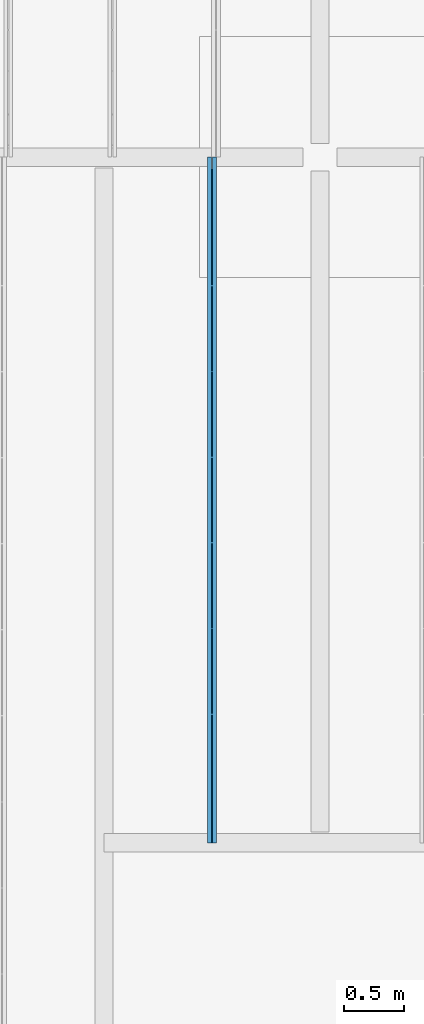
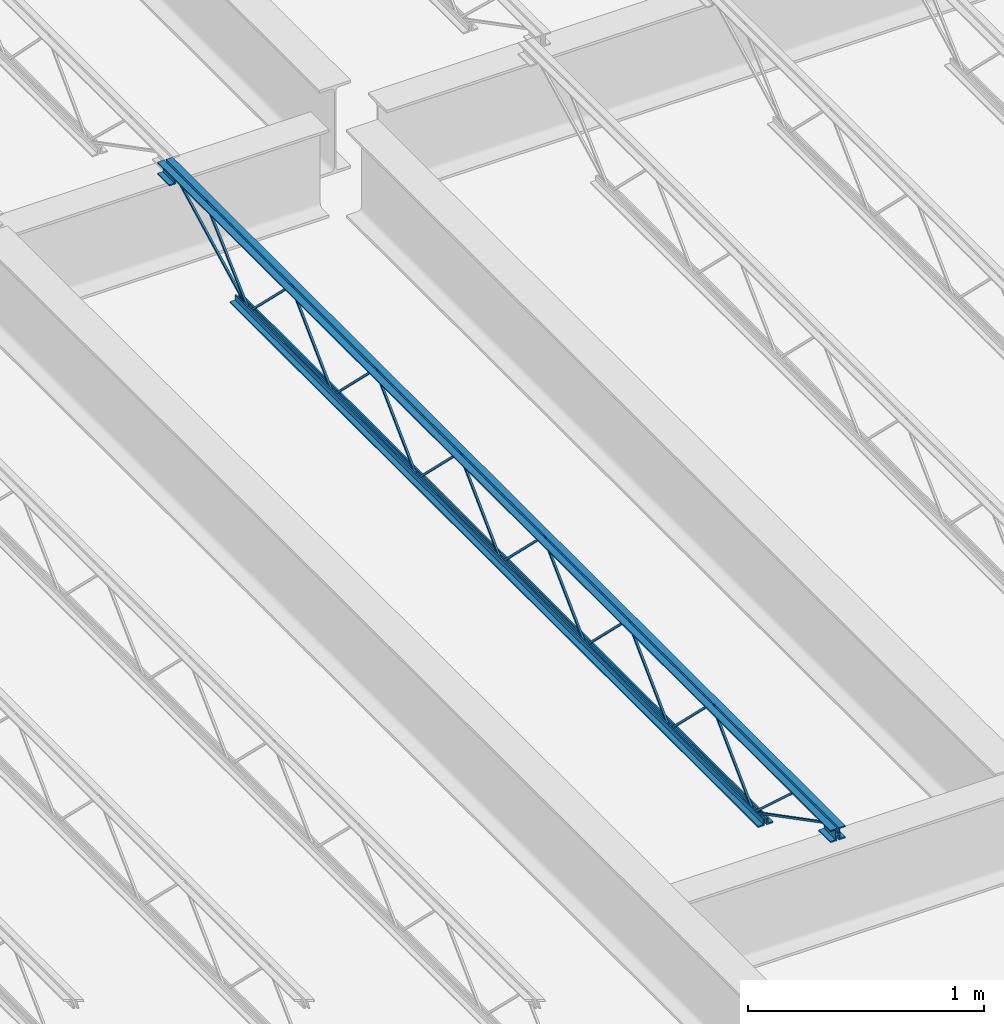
# One storey, part 20 of 75: 1 beam.
"""IFC2X3 building model written with IfcOpenShell, lengths in metres."""

from ifc_helpers import new_model, entity, si_unit, converted_unit, frame, origin, place, context, project, spatial, face_set, surface_model, element, save


model = new_model("IFC2X3")

# Units and contexts
model_context = context("Model", 3, precision=1e-09, world=origin())
plan_context = context("Plan", 3, precision=1e-09, world=origin())
ifc_project = project(units=[si_unit("LENGTHUNIT", "METRE"), si_unit("AREAUNIT", "SQUARE_METRE"), si_unit("VOLUMEUNIT", "CUBIC_METRE"), converted_unit("PLANEANGLEUNIT", "DEGREE", entity("IfcRatioMeasure", 0.01745329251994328), si_unit("PLANEANGLEUNIT", "RADIAN"), dimensions=[0, 0, 0, 0, 0, 0, 0]), si_unit("TIMEUNIT", "SECOND")], contexts=[model_context, plan_context])

# Site, building, storey
site_placement = place(None, origin())
site = spatial("IfcSite", under=ifc_project, at=site_placement, Name="Default", CompositionType="ELEMENT")
building_placement = place(site_placement, origin())
building = spatial("IfcBuilding", under=site, at=building_placement, CompositionType="ELEMENT")
storey_placement = place(building_placement, origin())
storey = spatial("IfcBuildingStorey", under=building, at=storey_placement, Name="First Floor", CompositionType="ELEMENT", Elevation=-3.531500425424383e-13)

# Beam
beam_placement = place(storey_placement, frame((-15.81426689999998, 12.91254609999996, 4.112000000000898)))
element("IfcBeam", 1, at=beam_placement, inside=storey, Name="M_K-Series Bar Joist-Rod Web:14K1:14K1", ObjectType="M_K-Series Bar Joist-Rod Web:14K1", context=model_context, shape_type="SurfaceModel", body=[
    surface_model("IfcFaceBasedSurfaceModel", [(0.0415000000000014, 3.560666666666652, 0.01110000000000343), (0.03200000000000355, 3.560666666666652, 0.01110000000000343), (0.03200000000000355, 3.560666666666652, 0.001600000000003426), (0.0415000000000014, 3.560666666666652, 0.001600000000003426), (0.03200000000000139, 3.561899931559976, 0.01110000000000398), (0.0415000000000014, 3.561899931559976, 0.01110000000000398), (0.03200000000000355, 3.565783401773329, 0.001600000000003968), (0.03200000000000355, 3.915516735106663, 0.3449000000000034), (0.03200000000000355, 3.91798326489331, 0.3449000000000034), (0.03200000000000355, 4.267716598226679, 0.001600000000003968), (0.03200000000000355, 4.27283333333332, 0.001600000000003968), (0.03200000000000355, 4.27283333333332, 0.01110000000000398), (0.03200000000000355, 4.271600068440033, 0.01110000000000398), (0.03200000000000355, 3.921866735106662, 0.3544000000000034), (0.03200000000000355, 3.91163326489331, 0.3544000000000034), (0.04150000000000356, 3.565783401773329, 0.001600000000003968), (0.0415000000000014, 3.915516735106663, 0.3449000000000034), (0.0415000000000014, 3.917983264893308, 0.3449000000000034), (0.0415000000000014, 4.267716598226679, 0.001600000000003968), (0.0415000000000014, 4.27283333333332, 0.001600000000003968), (0.0415000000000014, 4.27283333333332, 0.01110000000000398), (0.0415000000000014, 4.271600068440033, 0.01110000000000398), (0.0415000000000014, 3.921866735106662, 0.3544000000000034), (0.0415000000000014, 3.91163326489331, 0.3544000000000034), (0.0415000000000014, 2.848499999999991, 0.01110000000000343), (0.03200000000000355, 2.848499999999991, 0.01110000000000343), (0.03200000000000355, 2.848499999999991, 0.001600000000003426), (0.0415000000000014, 2.848499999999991, 0.001600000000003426), (0.03200000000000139, 2.849733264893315, 0.01110000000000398), (0.0415000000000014, 2.849733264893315, 0.01110000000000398), (0.03200000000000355, 2.853616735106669, 0.001600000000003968), (0.03200000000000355, 3.20335006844, 0.3449000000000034), (0.03200000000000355, 3.205816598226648, 0.3449000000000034), (0.03200000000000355, 3.555549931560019, 0.001600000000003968), (0.03200000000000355, 3.560666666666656, 0.001600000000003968), (0.03200000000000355, 3.560666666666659, 0.01110000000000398), (0.03200000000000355, 3.559433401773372, 0.01110000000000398), (0.03200000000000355, 3.209700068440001, 0.3544000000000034), (0.03200000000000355, 3.199466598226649, 0.3544000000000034), (0.04150000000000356, 2.853616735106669, 0.001600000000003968), (0.0415000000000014, 3.203350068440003, 0.3449000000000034), (0.0415000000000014, 3.205816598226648, 0.3449000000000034), (0.0415000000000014, 3.555549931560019, 0.001600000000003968), (0.0415000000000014, 3.560666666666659, 0.001600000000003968), (0.0415000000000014, 3.560666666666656, 0.01110000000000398), (0.0415000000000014, 3.559433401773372, 0.01110000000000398), (0.0415000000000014, 3.209700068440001, 0.3544000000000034), (0.0415000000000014, 3.199466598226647, 0.3544000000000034), (0.0415000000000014, 2.136333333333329, 0.01110000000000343), (0.03200000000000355, 2.136333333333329, 0.01110000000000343), (0.03200000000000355, 2.136333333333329, 0.001600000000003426), (0.0415000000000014, 2.136333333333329, 0.001600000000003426), (0.03200000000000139, 2.137566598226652, 0.01110000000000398), (0.0415000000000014, 2.137566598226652, 0.01110000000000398), (0.03200000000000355, 2.141450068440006, 0.001600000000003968), (0.03200000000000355, 2.491183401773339, 0.3449000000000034), (0.03200000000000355, 2.493649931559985, 0.3449000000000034), (0.03200000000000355, 2.843383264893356, 0.001600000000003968), (0.03200000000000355, 2.848499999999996, 0.001600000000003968), (0.03200000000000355, 2.848499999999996, 0.01110000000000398), (0.03200000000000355, 2.847266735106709, 0.01110000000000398), (0.03200000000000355, 2.497533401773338, 0.3544000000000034), (0.03200000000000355, 2.487299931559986, 0.3544000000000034), (0.04150000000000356, 2.141450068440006, 0.001600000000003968), (0.0415000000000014, 2.491183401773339, 0.3449000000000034), (0.0415000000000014, 2.493649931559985, 0.3449000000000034), (0.0415000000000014, 2.843383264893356, 0.001600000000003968), (0.0415000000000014, 2.848499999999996, 0.001600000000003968), (0.0415000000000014, 2.848499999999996, 0.01110000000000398), (0.0415000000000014, 2.847266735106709, 0.01110000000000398), (0.0415000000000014, 2.497533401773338, 0.3544000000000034), (0.0415000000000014, 2.487299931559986, 0.3544000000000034), (0.0415000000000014, 1.424166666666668, 0.01110000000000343), (0.03200000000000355, 1.424166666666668, 0.01110000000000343), (0.03200000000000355, 1.424166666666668, 0.001600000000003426), (0.0415000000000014, 1.424166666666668, 0.001600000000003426), (0.03200000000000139, 1.425399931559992, 0.01110000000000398), (0.0415000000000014, 1.425399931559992, 0.01110000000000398), (0.03200000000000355, 1.429283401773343, 0.001600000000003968), (0.03200000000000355, 1.779016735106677, 0.3449000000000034), (0.03200000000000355, 1.781483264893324, 0.3449000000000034), (0.03200000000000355, 2.131216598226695, 0.001600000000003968), (0.03200000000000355, 2.136333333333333, 0.001600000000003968), (0.03200000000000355, 2.136333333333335, 0.01110000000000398), (0.03200000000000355, 2.135100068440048, 0.01110000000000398), (0.03200000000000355, 1.785366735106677, 0.3544000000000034), (0.03200000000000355, 1.775133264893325, 0.3544000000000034), (0.04150000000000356, 1.429283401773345, 0.001600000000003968), (0.0415000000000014, 1.779016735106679, 0.3449000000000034), (0.0415000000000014, 1.781483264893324, 0.3449000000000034), (0.0415000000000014, 2.131216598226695, 0.001600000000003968), (0.0415000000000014, 2.136333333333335, 0.001600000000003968), (0.0415000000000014, 2.136333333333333, 0.01110000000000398), (0.0415000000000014, 2.135100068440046, 0.01110000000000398), (0.0415000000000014, 1.785366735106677, 0.3544000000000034), (0.0415000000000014, 1.775133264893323, 0.3544000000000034), (0.04149999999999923, 4.272833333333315, 0.01109999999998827), (0.03200000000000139, 4.272833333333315, 0.01109999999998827), (0.03200000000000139, 4.272833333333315, 0.001599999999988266), (0.04149999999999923, 4.272833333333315, 0.001599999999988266), (0.03199999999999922, 4.274066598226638, 0.01109999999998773), (0.04149999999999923, 4.274066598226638, 0.01109999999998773), (0.03199999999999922, 4.277950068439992, 0.001599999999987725), (0.03199999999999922, 4.627683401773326, 0.3448999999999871), (0.03199999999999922, 4.630149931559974, 0.3448999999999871), (0.03199999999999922, 4.979883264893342, 0.001599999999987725), (0.03200000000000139, 4.984999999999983, 0.001599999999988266), (0.03199999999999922, 4.984999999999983, 0.01109999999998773), (0.03199999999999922, 4.983766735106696, 0.01109999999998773), (0.03199999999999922, 4.634033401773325, 0.3543999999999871), (0.03199999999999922, 4.623799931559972, 0.3543999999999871), (0.04149999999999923, 4.277950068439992, 0.001599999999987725), (0.04149999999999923, 4.627683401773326, 0.3448999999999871), (0.04149999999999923, 4.630149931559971, 0.3448999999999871), (0.04149999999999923, 4.979883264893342, 0.001599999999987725), (0.04149999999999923, 4.984999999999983, 0.001599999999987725), (0.04149999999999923, 4.984999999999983, 0.01109999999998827), (0.04149999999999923, 4.983766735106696, 0.01109999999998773), (0.04149999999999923, 4.634033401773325, 0.3543999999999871), (0.04149999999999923, 4.623799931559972, 0.3543999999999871), (0.0415000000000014, 0.712000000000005, 0.01110000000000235), (0.03200000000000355, 0.712000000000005, 0.01110000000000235), (0.03200000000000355, 0.712000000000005, 0.001600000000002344), (0.0415000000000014, 0.712000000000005, 0.001600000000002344), (0.03200000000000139, 0.7132332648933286, 0.01110000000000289), (0.0415000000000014, 0.7132332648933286, 0.01110000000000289), (0.03200000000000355, 0.717116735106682, 0.001600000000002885), (0.03200000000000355, 1.066850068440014, 0.3449000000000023), (0.03200000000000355, 1.069316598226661, 0.3449000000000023), (0.03200000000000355, 1.419049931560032, 0.001600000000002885), (0.03200000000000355, 1.42416666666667, 0.001600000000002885), (0.03200000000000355, 1.424166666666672, 0.01110000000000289), (0.03200000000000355, 1.422933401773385, 0.01110000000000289), (0.03200000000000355, 1.073200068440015, 0.3544000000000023), (0.03200000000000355, 1.062966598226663, 0.3544000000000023), (0.04150000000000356, 0.717116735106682, 0.001600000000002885), (0.0415000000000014, 1.066850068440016, 0.3449000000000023), (0.0415000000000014, 1.069316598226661, 0.3449000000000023), (0.0415000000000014, 1.419049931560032, 0.001600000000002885), (0.0415000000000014, 1.424166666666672, 0.001600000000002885), (0.0415000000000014, 1.42416666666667, 0.01110000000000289), (0.0415000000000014, 1.422933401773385, 0.01110000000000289), (0.0415000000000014, 1.073200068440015, 0.3544000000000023), (0.0415000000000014, 1.062966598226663, 0.3544000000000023), (0.03200000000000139, 5.697, 0.3559999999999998), (0.0, 5.697, 0.3559999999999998), (0.0, 5.697, 0.349499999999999), (0.0255000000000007, 5.697, 0.349499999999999), (0.0255000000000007, 5.697, 0.3239999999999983), (0.03200000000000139, 5.697, 0.3239999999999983), (0.0415000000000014, 5.697, 0.3559999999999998), (0.0415000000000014, 5.697, 0.3239999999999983), (0.04800000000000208, 5.697, 0.3239999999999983), (0.04800000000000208, 5.697, 0.349499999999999), (0.07350000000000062, 5.697, 0.349499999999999), (0.07350000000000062, 5.697, 0.3559999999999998), (0.03200000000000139, 0.0, 0.3559999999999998), (0.0, 0.0, 0.3559999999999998), (0.0, 0.0, 0.349499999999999), (0.0255000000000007, 0.0, 0.349499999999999), (0.0255000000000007, 0.0, 0.3239999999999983), (0.03200000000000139, 0.0, 0.3239999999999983), (0.0415000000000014, 0.0, 0.3559999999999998), (0.0415000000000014, 0.0, 0.3239999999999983), (0.04800000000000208, 0.0, 0.3239999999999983), (0.04800000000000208, 0.0, 0.349499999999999), (0.07350000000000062, 0.0, 0.349499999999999), (0.07350000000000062, 0.0, 0.3559999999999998), (0.0415000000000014, 0.09999999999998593, 0.2924999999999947), (0.07350000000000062, 0.09999999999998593, 0.2924999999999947), (0.07350000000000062, 0.09999999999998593, 0.2989999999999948), (0.04800000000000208, 0.09999999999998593, 0.2989999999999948), (0.04800000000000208, 0.09999999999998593, 0.3239999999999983), (0.0415000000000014, 0.09999999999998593, 0.3239999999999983), (0.0, 0.09999999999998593, 0.2924999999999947), (0.03200000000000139, 0.09999999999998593, 0.2924999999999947), (0.03200000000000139, 0.09999999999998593, 0.3239999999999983), (0.0255000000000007, 0.09999999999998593, 0.3239999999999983), (0.0255000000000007, 0.09999999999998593, 0.2989999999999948), (0.0, 0.09999999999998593, 0.2989999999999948), (0.0415000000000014, 0.0, 0.2924999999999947), (0.07350000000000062, 0.0, 0.2924999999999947), (0.07350000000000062, 0.0, 0.2989999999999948), (0.04800000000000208, 0.0, 0.2989999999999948), (0.0, 0.0, 0.2924999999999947), (0.03200000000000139, 0.0, 0.2924999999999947), (0.0255000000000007, 0.0, 0.2989999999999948), (0.0, 0.0, 0.2989999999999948), (0.03200000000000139, 5.697, 0.2924999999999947), (0.02550000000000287, 5.697, 0.3239999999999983), (0.02550000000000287, 5.697, 0.2989999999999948), (0.0, 5.697, 0.2989999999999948), (0.0, 5.697, 0.2924999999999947), (0.0415000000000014, 5.697, 0.2924999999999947), (0.07350000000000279, 5.697, 0.2924999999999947), (0.07350000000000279, 5.697, 0.2989999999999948), (0.04800000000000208, 5.697, 0.2989999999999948), (0.03200000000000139, 5.597000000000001, 0.2924999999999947), (0.03200000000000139, 5.597000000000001, 0.3239999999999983), (0.02550000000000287, 5.597000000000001, 0.3239999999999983), (0.02550000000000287, 5.597000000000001, 0.2989999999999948), (0.0, 5.597000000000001, 0.2989999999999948), (0.0, 5.597000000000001, 0.2924999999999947), (0.0415000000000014, 5.597000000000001, 0.2924999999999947), (0.07350000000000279, 5.597000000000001, 0.2924999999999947), (0.07350000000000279, 5.597000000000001, 0.2989999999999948), (0.04800000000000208, 5.597000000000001, 0.2989999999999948), (0.04800000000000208, 5.597000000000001, 0.3239999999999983), (0.0415000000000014, 5.597000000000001, 0.3239999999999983), (0.03200000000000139, 5.085000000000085, 0.0), (0.03200000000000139, 5.085000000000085, 0.03199999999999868), (0.0255000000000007, 5.085000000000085, 0.03199999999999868), (0.0255000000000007, 5.085000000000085, 0.006499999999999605), (0.0, 5.085000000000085, 0.006499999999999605), (0.0, 5.085000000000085, 0.0), (0.0415000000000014, 5.085000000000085, 0.0), (0.07350000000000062, 5.085000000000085, 0.0), (0.07350000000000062, 5.085000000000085, 0.006499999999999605), (0.04800000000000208, 5.085000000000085, 0.006499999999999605), (0.04800000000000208, 5.085000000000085, 0.03199999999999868), (0.0415000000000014, 5.085000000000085, 0.03199999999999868), (0.03200000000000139, 0.6120000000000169, 0.0), (0.03200000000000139, 0.6120000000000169, 0.03199999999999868), (0.0255000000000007, 0.6120000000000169, 0.03199999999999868), (0.0255000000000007, 0.6120000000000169, 0.006499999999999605), (0.0, 0.6120000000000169, 0.006499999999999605), (0.0, 0.6120000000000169, 0.0), (0.0415000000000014, 0.6120000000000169, 0.0), (0.07350000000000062, 0.6120000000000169, 0.0), (0.07350000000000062, 0.6120000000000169, 0.006499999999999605), (0.04800000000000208, 0.6120000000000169, 0.006499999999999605), (0.04800000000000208, 0.6120000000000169, 0.03199999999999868), (0.0415000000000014, 0.6120000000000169, 0.03199999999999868), (0.04150000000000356, 0.7141882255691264, 0.01056594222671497), (0.03200000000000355, 0.7141882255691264, 0.01056594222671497), (0.03200000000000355, 0.7098117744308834, 0.002134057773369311), (0.04150000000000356, 0.7098117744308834, 0.002134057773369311), (0.04150000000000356, 0.1011592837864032, 0.3287499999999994), (0.04150000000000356, 0.0, 0.3287499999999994), (0.04150000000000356, 0.0, 0.3192499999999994), (0.04150000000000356, 0.09884071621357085, 0.3192499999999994), (0.03200000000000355, 0.09884071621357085, 0.3192499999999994), (0.03200000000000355, 0.1011592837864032, 0.3287499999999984), (0.03200000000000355, 0.0, 0.3287499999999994), (0.03200000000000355, 0.0, 0.3192499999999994), (0.0415000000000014, 0.3359595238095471, 0.341700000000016), (0.03200000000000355, 0.3359595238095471, 0.341700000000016), (0.03200000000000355, 0.3359595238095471, 0.332200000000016), (0.0415000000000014, 0.3359595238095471, 0.332200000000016), (0.03200000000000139, 0.3504971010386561, 0.341700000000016), (0.0415000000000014, 0.3504971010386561, 0.341700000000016), (0.03200000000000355, 0.3468219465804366, 0.3322000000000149), (0.03200000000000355, 0.708803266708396, 0.002836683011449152), (0.03200000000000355, 0.715196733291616, 0.009863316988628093), (0.04150000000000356, 0.3468219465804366, 0.332200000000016), (0.0415000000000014, 0.708803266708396, 0.002836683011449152), (0.0415000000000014, 0.715196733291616, 0.009863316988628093), (0.0415000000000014, 5.599188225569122, 0.3197840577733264), (0.0415000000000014, 5.594811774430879, 0.3282159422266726), (0.03200000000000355, 5.594811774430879, 0.3282159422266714), (0.03200000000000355, 5.599188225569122, 0.3197840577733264), (0.0415000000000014, 4.98718822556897, 0.002134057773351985), (0.0415000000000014, 4.982811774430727, 0.01056594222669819), (0.03200000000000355, 4.982811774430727, 0.01056594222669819), (0.03200000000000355, 4.98718822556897, 0.002134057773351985), (0.0415000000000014, 5.358825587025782, 0.3461653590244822), (0.0415000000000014, 5.352369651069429, 0.3531346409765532), (0.03200000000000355, 5.352369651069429, 0.3531346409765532), (0.03200000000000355, 5.358825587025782, 0.3461653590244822), (0.0415000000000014, 4.988227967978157, 0.002865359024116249), (0.0415000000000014, 4.981772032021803, 0.009834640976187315), (0.03200000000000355, 4.981772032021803, 0.009834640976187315), (0.03200000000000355, 4.988227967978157, 0.002865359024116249)], [face_set([[[0, 1, 2, 3]], [[1, 4, 5, 0]], [[2, 6, 7, 8, 9, 10, 11, 12, 13, 14, 4, 1]], [[3, 2, 6, 15]], [[0, 3, 15, 16, 17, 18, 19, 20, 21, 22, 23, 5]], [[4, 5, 23, 14]], [[15, 16, 7, 6]], [[14, 13, 22, 23]], [[16, 7, 8, 17]], [[13, 12, 21, 22]], [[17, 8, 9, 18]], [[20, 11, 10, 19]], [[12, 11, 20, 21]], [[18, 9, 10, 19]]]), face_set([[[24, 25, 26, 27]], [[25, 28, 29, 24]], [[26, 30, 31, 32, 33, 34, 35, 36, 37, 38, 28, 25]], [[27, 26, 30, 39]], [[24, 27, 39, 40, 41, 42, 43, 44, 45, 46, 47, 29]], [[28, 29, 47, 38]], [[39, 40, 31, 30]], [[38, 37, 46, 47]], [[40, 31, 32, 41]], [[37, 36, 45, 46]], [[41, 32, 33, 42]], [[44, 35, 34, 43]], [[36, 35, 44, 45]], [[42, 33, 34, 43]]]), face_set([[[48, 49, 50, 51]], [[49, 52, 53, 48]], [[50, 54, 55, 56, 57, 58, 59, 60, 61, 62, 52, 49]], [[51, 50, 54, 63]], [[48, 51, 63, 64, 65, 66, 67, 68, 69, 70, 71, 53]], [[52, 53, 71, 62]], [[63, 64, 55, 54]], [[62, 61, 70, 71]], [[64, 55, 56, 65]], [[61, 60, 69, 70]], [[65, 56, 57, 66]], [[68, 59, 58, 67]], [[60, 59, 68, 69]], [[66, 57, 58, 67]]]), face_set([[[72, 73, 74, 75]], [[73, 76, 77, 72]], [[74, 78, 79, 80, 81, 82, 83, 84, 85, 86, 76, 73]], [[75, 74, 78, 87]], [[72, 75, 87, 88, 89, 90, 91, 92, 93, 94, 95, 77]], [[76, 77, 95, 86]], [[87, 88, 79, 78]], [[86, 85, 94, 95]], [[88, 79, 80, 89]], [[85, 84, 93, 94]], [[89, 80, 81, 90]], [[92, 83, 82, 91]], [[84, 83, 92, 93]], [[90, 81, 82, 91]]]), face_set([[[96, 97, 98, 99]], [[97, 100, 101, 96]], [[98, 102, 103, 104, 105, 106, 107, 108, 109, 110, 100, 97]], [[99, 98, 102, 111]], [[96, 99, 111, 112, 113, 114, 115, 116, 117, 118, 119, 101]], [[100, 101, 119, 110]], [[111, 112, 103, 102]], [[110, 109, 118, 119]], [[112, 103, 104, 113]], [[109, 108, 117, 118]], [[113, 104, 105, 114]], [[116, 107, 106, 115]], [[108, 107, 116, 117]], [[114, 105, 106, 115]]]), face_set([[[120, 121, 122, 123]], [[121, 124, 125, 120]], [[122, 126, 127, 128, 129, 130, 131, 132, 133, 134, 124, 121]], [[123, 122, 126, 135]], [[120, 123, 135, 136, 137, 138, 139, 140, 141, 142, 143, 125]], [[124, 125, 143, 134]], [[135, 136, 127, 126]], [[134, 133, 142, 143]], [[136, 127, 128, 137]], [[133, 132, 141, 142]], [[137, 128, 129, 138]], [[140, 131, 130, 139]], [[132, 131, 140, 141]], [[138, 129, 130, 139]]]), face_set([[[144, 145, 146, 147, 148, 149]], [[150, 151, 152, 153, 154, 155]], [[156, 157, 158, 159, 160, 161]], [[162, 163, 164, 165, 166, 167]], [[149, 144, 156, 161]], [[148, 149, 161, 160]], [[147, 159, 160, 148]], [[146, 147, 159, 158]], [[145, 157, 158, 146]], [[144, 156, 157, 145]], [[155, 167, 162, 150]], [[154, 155, 167, 166]], [[153, 154, 166, 165]], [[152, 153, 165, 164]], [[151, 152, 164, 163]], [[150, 162, 163, 151]]]), face_set([[[168, 169, 170, 171, 172, 173]], [[174, 175, 176, 177, 178, 179]], [[180, 181, 182, 183, 164, 163]], [[184, 185, 161, 160, 186, 187]], [[173, 163, 180, 168]], [[172, 164, 163, 173]], [[171, 172, 164, 183]], [[170, 182, 183, 171]], [[169, 170, 182, 181]], [[168, 169, 181, 180]], [[179, 187, 184, 174]], [[178, 186, 187, 179]], [[177, 160, 186, 178]], [[176, 161, 160, 177]], [[175, 176, 161, 185]], [[174, 175, 185, 184]]]), face_set([[[188, 149, 189, 190, 191, 192]], [[193, 194, 195, 196, 152, 151]], [[197, 198, 199, 200, 201, 202]], [[203, 204, 205, 206, 207, 208]], [[192, 188, 197, 202]], [[191, 201, 202, 192]], [[190, 200, 201, 191]], [[189, 199, 200, 190]], [[149, 198, 199, 189]], [[188, 149, 198, 197]], [[151, 208, 203, 193]], [[152, 207, 208, 151]], [[196, 152, 207, 206]], [[195, 205, 206, 196]], [[194, 195, 205, 204]], [[193, 194, 204, 203]]]), face_set([[[209, 210, 211, 212, 213, 214]], [[215, 216, 217, 218, 219, 220]], [[221, 222, 223, 224, 225, 226]], [[227, 228, 229, 230, 231, 232]], [[214, 209, 221, 226]], [[213, 225, 226, 214]], [[212, 224, 225, 213]], [[211, 223, 224, 212]], [[210, 222, 223, 211]], [[209, 210, 222, 221]], [[220, 232, 227, 215]], [[219, 231, 232, 220]], [[218, 219, 231, 230]], [[217, 229, 230, 218]], [[216, 217, 229, 228]], [[215, 216, 228, 227]]]), face_set([[[233, 234, 235, 236]], [[236, 233, 237, 238, 239, 240]], [[235, 236, 240, 241]], [[234, 242, 243, 244, 241, 235]], [[233, 237, 242, 234]], [[238, 243, 244, 239]], [[241, 240, 239, 244]], [[237, 238, 243, 242]]]), face_set([[[245, 246, 247, 248]], [[246, 249, 250, 245]], [[247, 251, 252, 253, 249, 246]], [[248, 247, 251, 254]], [[245, 248, 254, 255, 256, 250]], [[256, 253, 252, 255]], [[249, 253, 256, 250]], [[254, 251, 252, 255]]]), face_set([[[257, 258, 259, 260]], [[261, 262, 263, 264]], [[260, 264, 261, 257]], [[259, 263, 264, 260]], [[258, 259, 263, 262]], [[257, 258, 262, 261]]]), face_set([[[265, 266, 267, 268]], [[269, 270, 271, 272]], [[268, 272, 269, 265]], [[267, 271, 272, 268]], [[266, 267, 271, 270]], [[265, 266, 270, 269]]])]),
])

save(model, "model.ifc")
